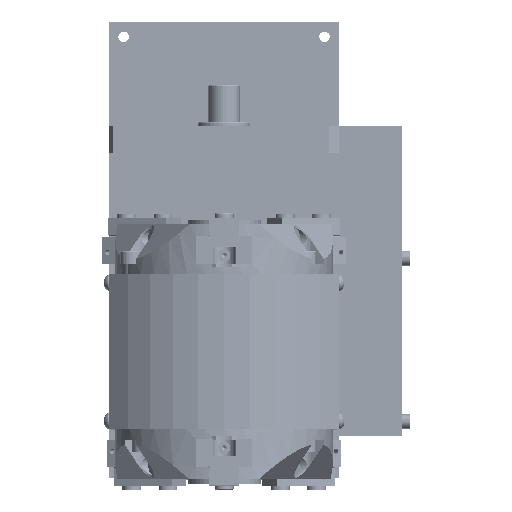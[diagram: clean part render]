
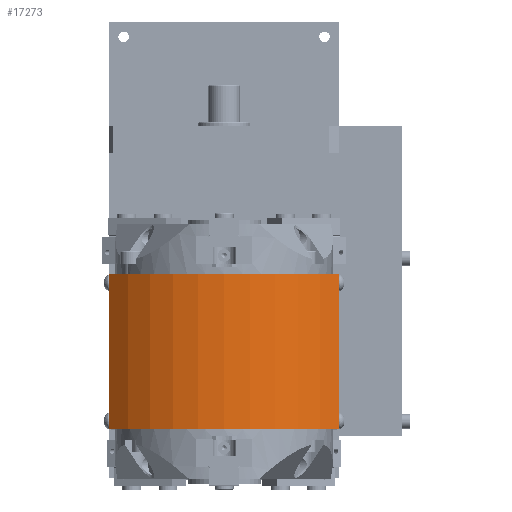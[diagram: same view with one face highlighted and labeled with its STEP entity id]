
A CAD part, top view. The second image highlights one B-rep face of the part: STEP entity #17273.
In plain terms, the highlighted cylindrical face has radius 75 mm (diameter 150 mm), a partial arc.
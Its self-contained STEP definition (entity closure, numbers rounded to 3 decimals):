
#13871 = EDGE_CURVE ( 'NONE', #23306, #23221, #35156, .T. ) ;
#13909 = EDGE_CURVE ( 'NONE', #22910, #23306, #35214, .T. ) ;
#13910 = EDGE_CURVE ( 'NONE', #22910, #23167, #35217, .T. ) ;
#13911 = EDGE_CURVE ( 'NONE', #23167, #23221, #35205, .T. ) ;
#17273 = ADVANCED_FACE ( 'NONE', ( #40452 ), #40450, .T. ) ;
#18913 = EDGE_LOOP ( 'NONE', ( #20030, #20031, #20032, #20033 ) ) ;
#20030 = ORIENTED_EDGE ( 'NONE', *, *, #13909, .T. ) ;
#20031 = ORIENTED_EDGE ( 'NONE', *, *, #13871, .T. ) ;
#20032 = ORIENTED_EDGE ( 'NONE', *, *, #13911, .F. ) ;
#20033 = ORIENTED_EDGE ( 'NONE', *, *, #13910, .F. ) ;
#22910 = VERTEX_POINT ( 'NONE', #54073 ) ;
#23167 = VERTEX_POINT ( 'NONE', #54330 ) ;
#23221 = VERTEX_POINT ( 'NONE', #54384 ) ;
#23306 = VERTEX_POINT ( 'NONE', #54469 ) ;
#33223 = AXIS2_PLACEMENT_3D ( 'NONE', #34873, #34874, #34875 ) ;
#33245 = AXIS2_PLACEMENT_3D ( 'NONE', #35448, #35465, #35466 ) ;
#34873 = CARTESIAN_POINT ( 'NONE',  ( 23., -37., 0. ) ) ;
#34874 = DIRECTION ( 'NONE',  ( 0., 1., 0. ) ) ;
#34875 = DIRECTION ( 'NONE',  ( 0., 0., 1. ) ) ;
#35156 = CIRCLE ( 'NONE', #33223, 75. ) ;
#35205 = LINE ( 'NONE', #35467, #35208 ) ;
#35208 = VECTOR ( 'NONE', #35468, 1000. ) ;
#35214 = LINE ( 'NONE', #35462, #35215 ) ;
#35215 = VECTOR ( 'NONE', #35463, 1000. ) ;
#35217 = CIRCLE ( 'NONE', #33245, 75. ) ;
#35448 = CARTESIAN_POINT ( 'NONE',  ( 23., 37., 0. ) ) ;
#35462 = CARTESIAN_POINT ( 'NONE',  ( -27.99, 37., -55. ) ) ;
#35463 = DIRECTION ( 'NONE',  ( 0., -1., 0. ) ) ;
#35465 = DIRECTION ( 'NONE',  ( 0., 1., 0. ) ) ;
#35466 = DIRECTION ( 'NONE',  ( 0., 0., 1. ) ) ;
#35467 = CARTESIAN_POINT ( 'NONE',  ( -27.99, 37., 55. ) ) ;
#35468 = DIRECTION ( 'NONE',  ( 0., -1., 0. ) ) ;
#40450 = CYLINDRICAL_SURFACE ( 'NONE', #40609, 75. ) ;
#40452 = FACE_OUTER_BOUND ( 'NONE', #18913, .T. ) ;
#40609 = AXIS2_PLACEMENT_3D ( 'NONE', #40963, #40955, #40958 ) ;
#40955 = DIRECTION ( 'NONE',  ( 0., -1., 0. ) ) ;
#40958 = DIRECTION ( 'NONE',  ( 0., 0., -1. ) ) ;
#40963 = CARTESIAN_POINT ( 'NONE',  ( 23., 37., 0. ) ) ;
#54073 = CARTESIAN_POINT ( 'NONE',  ( -27.99, 37., -55. ) ) ;
#54330 = CARTESIAN_POINT ( 'NONE',  ( -27.99, 37., 55. ) ) ;
#54384 = CARTESIAN_POINT ( 'NONE',  ( -27.99, -37., 55. ) ) ;
#54469 = CARTESIAN_POINT ( 'NONE',  ( -27.99, -37., -55. ) ) ;
